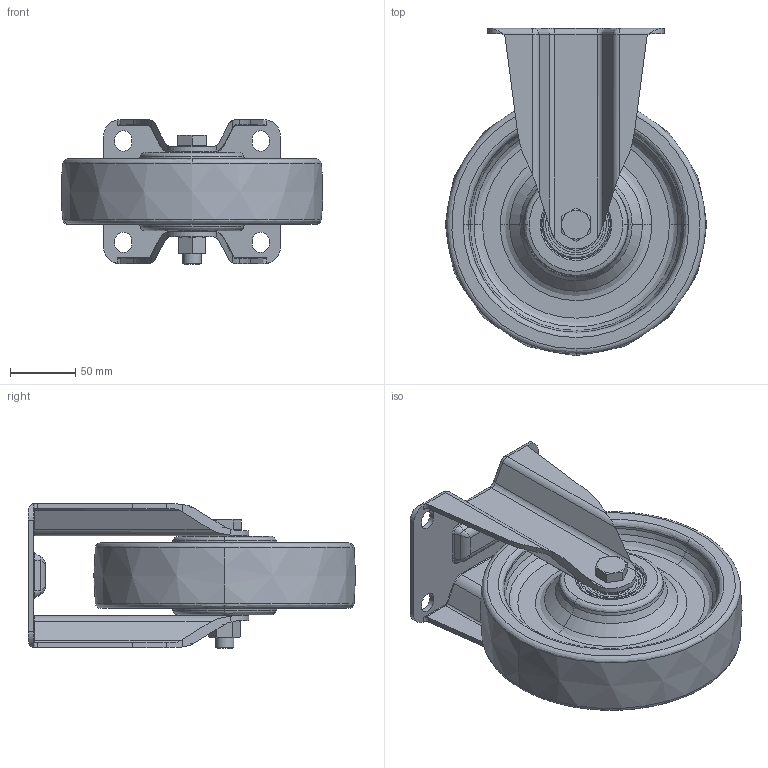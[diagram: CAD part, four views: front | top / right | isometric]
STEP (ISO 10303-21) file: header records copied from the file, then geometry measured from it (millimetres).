
FILE_DESCRIPTION(('STEP AP203'),'2;1');
FILE_NAME('17947_CL.stp','2010-05-03T15:50:38',(''),(''),'2009.1.108','THINKDESIGN','');
FILE_SCHEMA(('CONFIG_CONTROL_DESIGN'));
Length unit declared in the file: millimetre
Bounding box: 199.76 x 250 x 110.5 mm (x, y, z)
Volume: 1254410.2 mm3; surface area: 247142.3 mm2
Topology: 13 solids, 13 shells, 425 faces, 1315 edges, 1140 vertices
Faces by surface type: bspline 168, plane 140, cylinder 117
Full cylindrical faces by diameter (mm): 11.834 x1, 14 x1, 14.2 x2, 15 x1, 19.37 x1, 25 x3, 26 x2, 30 x2, 31.8 x6, 34.4 x4, 44.2 x4, 46.3 x6, 52 x2
Entity records: 24990 total; most frequent: CARTESIAN_POINT 14424, ORIENTED_EDGE 2112, DIRECTION 2059, EDGE_CURVE 1056, AXIS2_PLACEMENT_3D 774, VERTEX_POINT 694, CIRCLE 517, VECTOR 511
